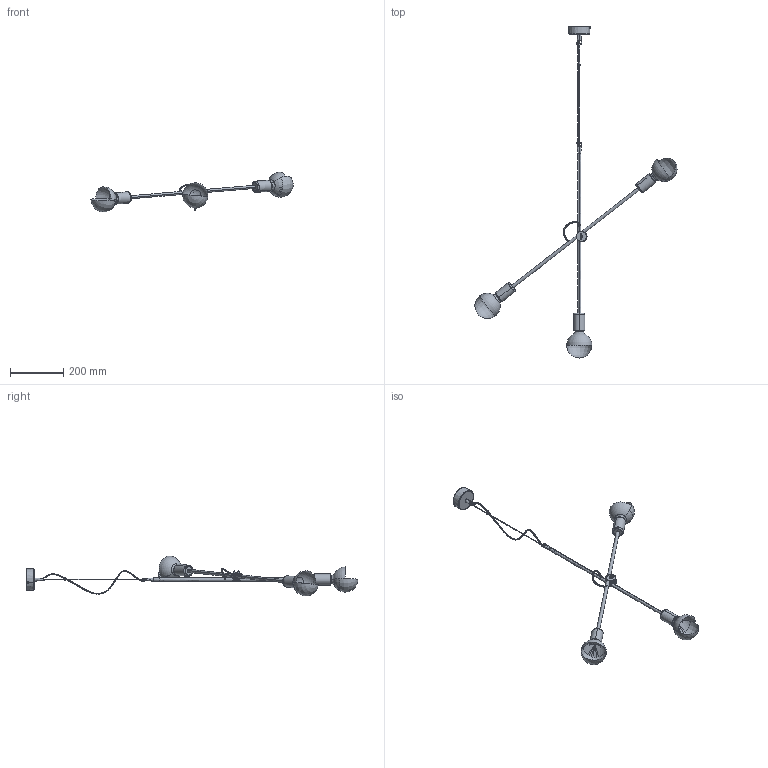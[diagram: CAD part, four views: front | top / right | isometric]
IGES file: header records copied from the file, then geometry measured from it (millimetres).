
Start section: SolidWorks IGES file using analytic representation for surfaces
Global section: file name: E:\3D lampy\Sticks\6268\Sticks_6268.IGS; native system: SolidWorks 2016; preprocessor: SolidWorks 2016; author: Asia; date: 160905.130627; units: millimetre
Bounding box: 758.36 x 1244.9 x 149.24 mm (x, y, z)
Surface area: 242489.9 mm2 (no closed solid volume)
Topology: 0 solids, 0 shells, 567 faces, 8629 edges, 8613 vertices
Faces by surface type: bspline 290, revolution 277
